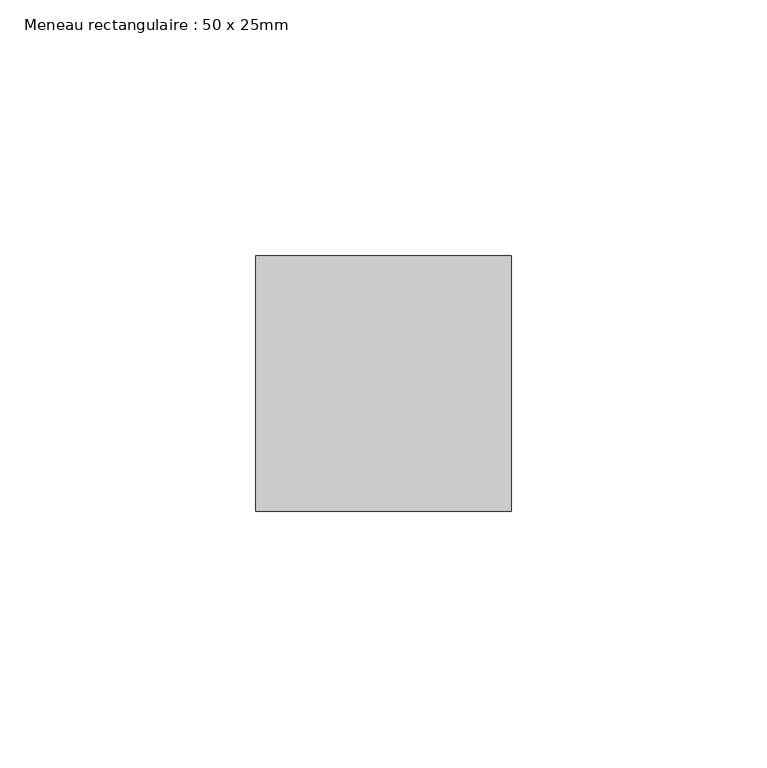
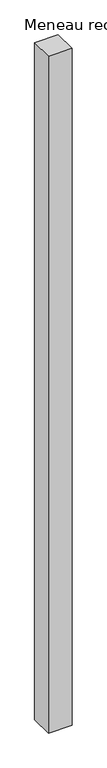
"""IFC4 building model written with IfcOpenShell, lengths in millimetres: member geometry, Meneau rectangulaire : 50 x 25mm."""

from ifc_helpers import new_model, si_unit, frame, origin, place, context, project, spatial, polyline, outline, extrude, source, transform, mapped, element, save


def meneau_rectangulaire_50_x_25mm_54aa8d96(model_context):
    return source(origin(), model_context, "Body", "SweptSolid", [
        extrude(outline(polyline([(0.0, 0.0), (0.0, -50.0), (-50.0, -50.0), (-50.0, 0.0), (0.0, 0.0)])), frame((0.0, 0.0, -1517.0), z_axis=(0.0, 0.0, 1.0), x_axis=(1.0, 0.0, 0.0)), (0.0, 0.0, 1.0), 1517.0),
    ])


if __name__ == "__main__":
    model = new_model("IFC4")
    model_context = context("Model", 3, world=origin())
    ifc_project = project(units=[si_unit("LENGTHUNIT", "METRE", prefix="MILLI")], contexts=[model_context])
    site = spatial("IfcSite", under=ifc_project)
    building = spatial("IfcBuilding", under=site)
    placement = place(None, origin())
    meneau_rectangulaire_50_x_25mm_shape = meneau_rectangulaire_50_x_25mm_54aa8d96(model_context)
    element("IfcMember", 1, ObjectType="Meneau rectangulaire : 50 x 25mm", at=placement, inside=building, context=model_context, shape_type="MappedRepresentation", body=[
        mapped(meneau_rectangulaire_50_x_25mm_shape, transform((0.0, 0.0, 0.0), x_axis=(1.0, 0.0, 0.0), y_axis=(0.0, 1.0, 0.0), z_axis=(0.0, 0.0, 1.0))),
    ])
    save(model, "model.ifc")
